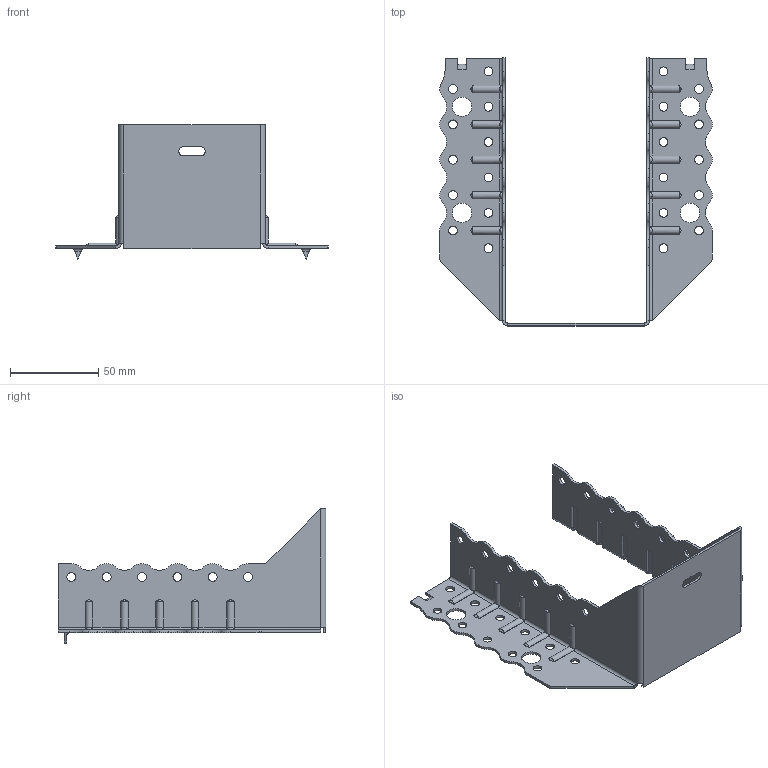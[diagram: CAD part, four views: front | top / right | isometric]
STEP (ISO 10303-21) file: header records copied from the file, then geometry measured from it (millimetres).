
FILE_DESCRIPTION (( 'STEP AP203' ), '1' );
FILE_NAME ('30620TOP.STEP', '2021-04-07T13:38:11', ( '' ), ( '' ), 'SwSTEP 2.0', 'SolidWorks 2013', '' );
FILE_SCHEMA (( 'CONFIG_CONTROL_DESIGN' ));
Length unit declared in the file: millimetre
Products named in the file (1): 30620TOP
Bounding box: 154 x 151.5 x 76 mm (x, y, z)
Volume: 38555.5 mm3; surface area: 54841.7 mm2
Topology: 1 solids, 1 shells, 428 faces, 1154 edges, 728 vertices
Faces by surface type: cylinder 269, plane 119, torus 20, bspline 20
Entity records: 15880 total; most frequent: CARTESIAN_POINT 5007, ORIENTED_EDGE 2308, DIRECTION 2228, EDGE_CURVE 1154, AXIS2_PLACEMENT_3D 813, VERTEX_POINT 728, VECTOR 602, LINE 602
